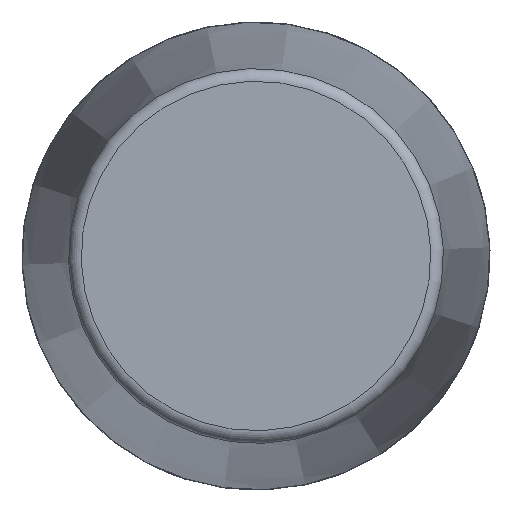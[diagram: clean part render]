
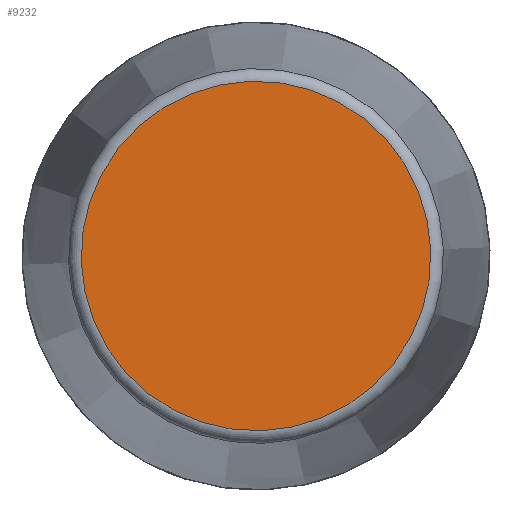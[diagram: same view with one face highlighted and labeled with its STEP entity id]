
A CAD part, front view. The second image highlights one B-rep face of the part: STEP entity #9232.
In plain terms, the highlighted planar face has unit normal (0, -1, 0) as drawn and (1, 0, 0) by its records, which use the part's own axes.
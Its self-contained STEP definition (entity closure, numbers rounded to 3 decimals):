
#260=PLANE('',#9604);
#3179=FACE_OUTER_BOUND('',#3765,.T.);
#3765=EDGE_LOOP('',(#8695));
#3806=CIRCLE('',#9600,138.13);
#4710=VERTEX_POINT('',#17431);
#6041=EDGE_CURVE('',#4710,#4710,#3806,.T.);
#8695=ORIENTED_EDGE('',*,*,#6041,.F.);
#9232=ADVANCED_FACE('',(#3179),#260,.T.);
#9600=AXIS2_PLACEMENT_3D('',#17432,#10976,#10977);
#9604=AXIS2_PLACEMENT_3D('',#17438,#10984,#10985);
#10976=DIRECTION('center_axis',(-1.,0.,0.));
#10977=DIRECTION('ref_axis',(0.,0.,
1.));
#10984=DIRECTION('center_axis',(1.,0.,0.));
#10985=DIRECTION('ref_axis',(0.,0.,-1.));
#17431=CARTESIAN_POINT('',(654.,0.,-138.13));
#17432=CARTESIAN_POINT('Origin',(654.,0.,0.));
#17438=CARTESIAN_POINT('Origin',(654.,0.,0.));
